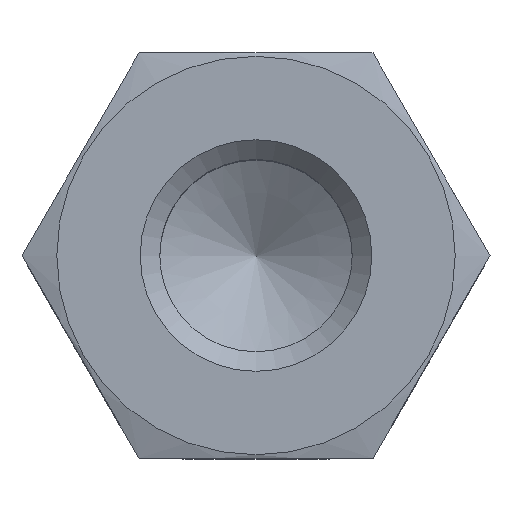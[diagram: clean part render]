
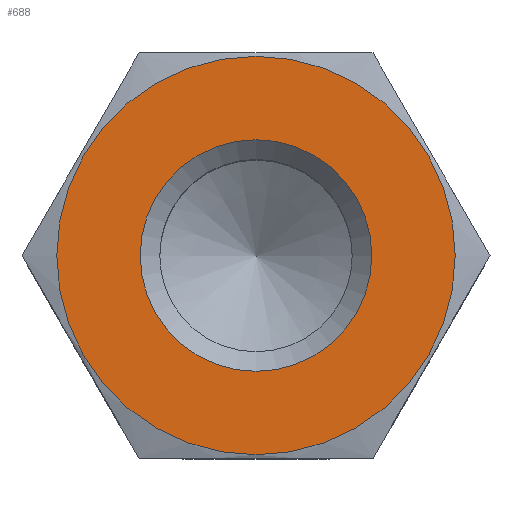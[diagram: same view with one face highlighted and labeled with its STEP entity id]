
A CAD part, top view. The second image highlights one B-rep face of the part: STEP entity #688.
In plain terms, the highlighted planar face has unit normal (0, 0, 1).
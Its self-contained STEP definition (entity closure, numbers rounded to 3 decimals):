
#124=FACE_BOUND('',#200,.T.);
#157=FACE_OUTER_BOUND('',#199,.T.);
#199=EDGE_LOOP('',(#588));
#200=EDGE_LOOP('',(#589,#590));
#267=CIRCLE('',#787,4.);
#268=CIRCLE('',#788,4.);
#271=CIRCLE('',#794,6.882);
#334=VERTEX_POINT('',#1202);
#335=VERTEX_POINT('',#1203);
#339=VERTEX_POINT('',#1217);
#421=EDGE_CURVE('',#334,#335,#267,.T.);
#422=EDGE_CURVE('',#335,#334,#268,.T.);
#428=EDGE_CURVE('',#339,#339,#271,.T.);
#588=ORIENTED_EDGE('',*,*,#428,.T.);
#589=ORIENTED_EDGE('',*,*,#421,.T.);
#590=ORIENTED_EDGE('',*,*,#422,.T.);
#651=PLANE('',#793);
#688=ADVANCED_FACE('',(#157,#124),#651,.T.);
#787=AXIS2_PLACEMENT_3D('',#1204,#977,#978);
#788=AXIS2_PLACEMENT_3D('',#1205,#979,#980);
#793=AXIS2_PLACEMENT_3D('',#1216,#992,#993);
#794=AXIS2_PLACEMENT_3D('',#1218,#994,#995);
#977=DIRECTION('center_axis',(0.,0.,-1.));
#978=DIRECTION('ref_axis',(-1.,0.,0.));
#979=DIRECTION('center_axis',(0.,0.,-1.));
#980=DIRECTION('ref_axis',(-1.,0.,0.));
#992=DIRECTION('center_axis',(0.,0.,1.));
#993=DIRECTION('ref_axis',(1.,0.,0.));
#994=DIRECTION('center_axis',(0.,0.,1.));
#995=DIRECTION('ref_axis',(0.,1.,0.));
#1202=CARTESIAN_POINT('',(46.801,181.035,0.));
#1203=CARTESIAN_POINT('',(54.801,181.035,0.));
#1204=CARTESIAN_POINT('Origin',(50.801,181.035,0.));
#1205=CARTESIAN_POINT('Origin',(50.801,181.035,0.));
#1216=CARTESIAN_POINT('Origin',(50.801,181.035,0.));
#1217=CARTESIAN_POINT('',(50.801,174.153,0.));
#1218=CARTESIAN_POINT('Origin',(50.801,181.035,0.));
